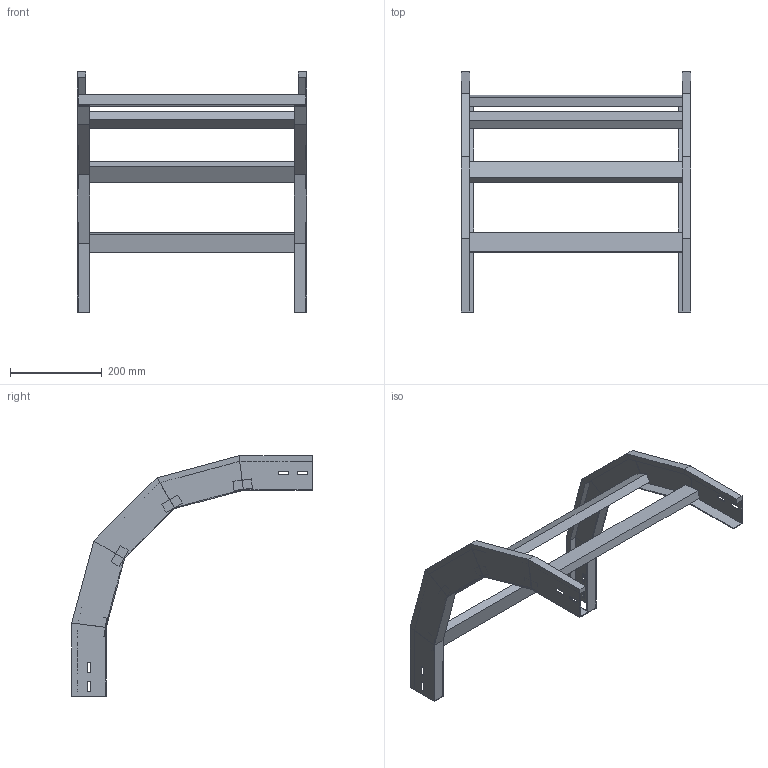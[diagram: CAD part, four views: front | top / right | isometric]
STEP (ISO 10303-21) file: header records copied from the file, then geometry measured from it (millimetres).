
FILE_DESCRIPTION (( 'STEP AP214' ), '1' );
FILE_NAME ('A2_33B3C500.step', '2025-02-21T15:05:34', ( '' ), ( '' ), 'SwSTEP 2.0', 'SolidWorks 2023', '' );
FILE_SCHEMA (( 'AUTOMOTIVE_DESIGN' ));
Length unit declared in the file: millimetre
Products named in the file (3): TRAVERSINO_500; A2_33B3C500; LONGH.DISCESA_90°_H75_R300
Assembly tree (6 placements, depth 2):
  A2_33B3C500
    LONGH.DISCESA_90°_H75_R300  x2
    TRAVERSINO_500  x4
Bounding box: 500 x 524.44 x 524.44 mm (x, y, z)
Volume: 2264829.3 mm3; surface area: 633336 mm2
Topology: 6 solids, 6 shells, 140 faces, 320 edges, 192 vertices
Faces by surface type: plane 140
Entity records: 1872 total; most frequent: CARTESIAN_POINT 309, ORIENTED_EDGE 296, DIRECTION 294, LINE 148, EDGE_CURVE 148, VECTOR 148, VERTEX_POINT 88, AXIS2_PLACEMENT_3D 73
